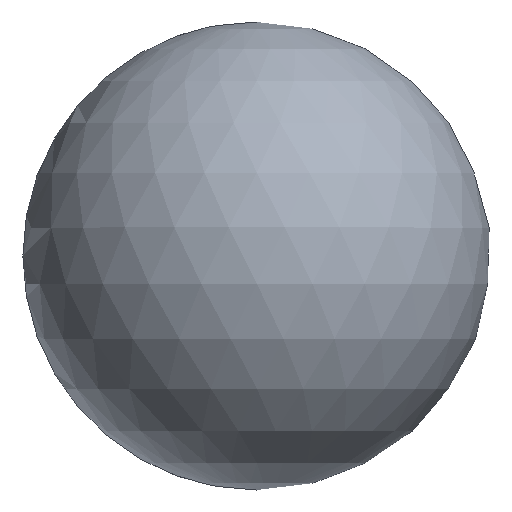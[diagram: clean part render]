
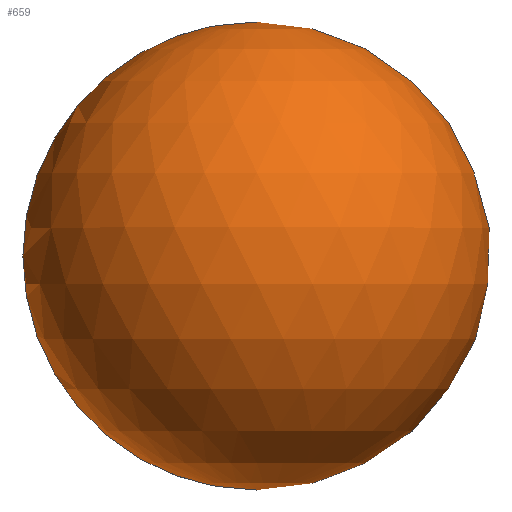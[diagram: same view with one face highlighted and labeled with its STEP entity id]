
A CAD part, top view. The second image highlights one B-rep face of the part: STEP entity #659.
In plain terms, the highlighted spherical face has radius 75 mm.
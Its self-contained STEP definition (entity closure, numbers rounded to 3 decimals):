
#88=FACE_BOUND('',#154,.T.);
#96=SPHERICAL_SURFACE('',#855,75.);
#115=FACE_OUTER_BOUND('',#153,.T.);
#153=EDGE_LOOP('',(#465,#466));
#154=EDGE_LOOP('',(#467));
#239=CIRCLE('',#852,6.);
#241=CIRCLE('',#856,75.);
#300=VERTEX_POINT('',#1206);
#302=VERTEX_POINT('',#1213);
#303=VERTEX_POINT('',#1214);
#367=EDGE_CURVE('',#300,#300,#239,.T.);
#370=EDGE_CURVE('',#302,#303,#241,.T.);
#465=ORIENTED_EDGE('',*,*,#370,.T.);
#466=ORIENTED_EDGE('',*,*,#370,.F.);
#467=ORIENTED_EDGE('',*,*,#367,.T.);
#659=ADVANCED_FACE('',(#115,#88),#96,.T.);
#852=AXIS2_PLACEMENT_3D('',#1207,#966,#967);
#855=AXIS2_PLACEMENT_3D('',#1212,#973,#974);
#856=AXIS2_PLACEMENT_3D('',#1215,#975,#976);
#966=DIRECTION('center_axis',(0.,1.,0.));
#967=DIRECTION('ref_axis',(1.,0.,0.));
#973=DIRECTION('center_axis',(0.,0.,1.));
#974=DIRECTION('ref_axis',(1.,0.,0.));
#975=DIRECTION('center_axis',(0.,-1.,0.));
#976=DIRECTION('ref_axis',(-1.,0.,0.));
#1206=CARTESIAN_POINT('',(-6.,0.24,0.));
#1207=CARTESIAN_POINT('Origin',(0.,0.24,0.));
#1212=CARTESIAN_POINT('Origin',(0.,75.,0.));
#1213=CARTESIAN_POINT('',(0.,75.,75.));
#1214=CARTESIAN_POINT('',(0.,75.,-75.));
#1215=CARTESIAN_POINT('Origin',(0.,75.,0.));
